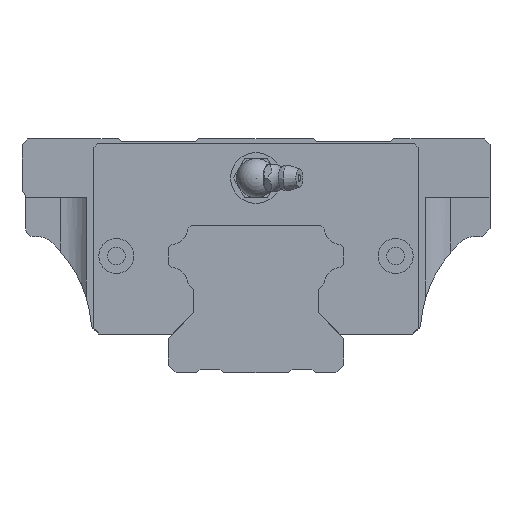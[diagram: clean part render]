
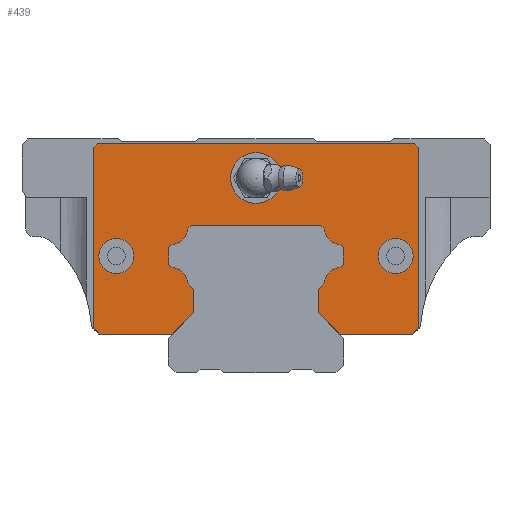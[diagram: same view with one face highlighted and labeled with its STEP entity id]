
A CAD part, front view. The second image highlights one B-rep face of the part: STEP entity #439.
In plain terms, the highlighted planar face has unit normal (0, -1, 0).
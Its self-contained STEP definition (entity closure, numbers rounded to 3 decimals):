
#124=FACE_BOUND('',#939,.T.);
#125=FACE_BOUND('',#940,.T.);
#126=FACE_BOUND('',#941,.T.);
#297=CIRCLE('',#3599,4.35);
#299=CIRCLE('',#3605,4.35);
#301=CIRCLE('',#3611,4.35);
#303=CIRCLE('',#3617,4.35);
#308=CIRCLE('',#3644,6.5);
#309=CIRCLE('',#3645,4.5);
#310=CIRCLE('',#3646,4.5);
#439=ADVANCED_FACE('',(#124,#125,#126,#761),#612,.F.);
#612=PLANE('',#3647);
#761=FACE_OUTER_BOUND('',#942,.T.);
#939=EDGE_LOOP('',(#1453));
#940=EDGE_LOOP('',(#1454));
#941=EDGE_LOOP('',(#1455));
#942=EDGE_LOOP('',(#1456,#1457,#1458,#1459,#1460,#1461,#1462,#1463,#1464,
#1465,#1466,#1467,#1468,#1469,#1470,#1471,#1472,#1473,#1474,#1475,#1476,
#1477,#1478,#1479,#1480,#1481,#1482,#1483));
#1453=ORIENTED_EDGE('',*,*,#2617,.F.);
#1454=ORIENTED_EDGE('',*,*,#2618,.F.);
#1455=ORIENTED_EDGE('',*,*,#2619,.F.);
#1456=ORIENTED_EDGE('',*,*,#2605,.F.);
#1457=ORIENTED_EDGE('',*,*,#2616,.T.);
#1458=ORIENTED_EDGE('',*,*,#2614,.T.);
#1459=ORIENTED_EDGE('',*,*,#2589,.T.);
#1460=ORIENTED_EDGE('',*,*,#2586,.F.);
#1461=ORIENTED_EDGE('',*,*,#2583,.F.);
#1462=ORIENTED_EDGE('',*,*,#2580,.T.);
#1463=ORIENTED_EDGE('',*,*,#2577,.T.);
#1464=ORIENTED_EDGE('',*,*,#2574,.T.);
#1465=ORIENTED_EDGE('',*,*,#2571,.F.);
#1466=ORIENTED_EDGE('',*,*,#2568,.F.);
#1467=ORIENTED_EDGE('',*,*,#2565,.T.);
#1468=ORIENTED_EDGE('',*,*,#2562,.F.);
#1469=ORIENTED_EDGE('',*,*,#2559,.T.);
#1470=ORIENTED_EDGE('',*,*,#2556,.T.);
#1471=ORIENTED_EDGE('',*,*,#2553,.T.);
#1472=ORIENTED_EDGE('',*,*,#2550,.T.);
#1473=ORIENTED_EDGE('',*,*,#2547,.T.);
#1474=ORIENTED_EDGE('',*,*,#2544,.F.);
#1475=ORIENTED_EDGE('',*,*,#2541,.T.);
#1476=ORIENTED_EDGE('',*,*,#2538,.F.);
#1477=ORIENTED_EDGE('',*,*,#2535,.T.);
#1478=ORIENTED_EDGE('',*,*,#2532,.T.);
#1479=ORIENTED_EDGE('',*,*,#2528,.F.);
#1480=ORIENTED_EDGE('',*,*,#2613,.T.);
#1481=ORIENTED_EDGE('',*,*,#2611,.F.);
#1482=ORIENTED_EDGE('',*,*,#2609,.F.);
#1483=ORIENTED_EDGE('',*,*,#2607,.F.);
#2169=VERTEX_POINT('',#5080);
#2170=VERTEX_POINT('',#5082);
#2173=VERTEX_POINT('',#5090);
#2175=VERTEX_POINT('',#5096);
#2177=VERTEX_POINT('',#5102);
#2179=VERTEX_POINT('',#5108);
#2181=VERTEX_POINT('',#5114);
#2183=VERTEX_POINT('',#5120);
#2185=VERTEX_POINT('',#5126);
#2187=VERTEX_POINT('',#5132);
#2189=VERTEX_POINT('',#5138);
#2191=VERTEX_POINT('',#5144);
#2193=VERTEX_POINT('',#5150);
#2195=VERTEX_POINT('',#5156);
#2197=VERTEX_POINT('',#5162);
#2199=VERTEX_POINT('',#5168);
#2201=VERTEX_POINT('',#5174);
#2203=VERTEX_POINT('',#5180);
#2205=VERTEX_POINT('',#5186);
#2207=VERTEX_POINT('',#5192);
#2209=VERTEX_POINT('',#5198);
#2211=VERTEX_POINT('',#5204);
#2217=VERTEX_POINT('',#5239);
#2218=VERTEX_POINT('',#5241);
#2219=VERTEX_POINT('',#5245);
#2220=VERTEX_POINT('',#5249);
#2221=VERTEX_POINT('',#5253);
#2222=VERTEX_POINT('',#5259);
#2223=VERTEX_POINT('',#5265);
#2224=VERTEX_POINT('',#5267);
#2225=VERTEX_POINT('',#5269);
#2528=EDGE_CURVE('',#2169,#2170,#2970,.T.);
#2532=EDGE_CURVE('',#2173,#2170,#2974,.T.);
#2535=EDGE_CURVE('',#2175,#2173,#2977,.T.);
#2538=EDGE_CURVE('',#2175,#2177,#2980,.T.);
#2541=EDGE_CURVE('',#2179,#2177,#297,.T.);
#2544=EDGE_CURVE('',#2179,#2181,#2984,.T.);
#2547=EDGE_CURVE('',#2183,#2181,#2987,.T.);
#2550=EDGE_CURVE('',#2185,#2183,#2990,.T.);
#2553=EDGE_CURVE('',#2187,#2185,#299,.T.);
#2556=EDGE_CURVE('',#2189,#2187,#2994,.T.);
#2559=EDGE_CURVE('',#2191,#2189,#2997,.T.);
#2562=EDGE_CURVE('',#2191,#2193,#3000,.T.);
#2565=EDGE_CURVE('',#2195,#2193,#301,.T.);
#2568=EDGE_CURVE('',#2195,#2197,#3004,.T.);
#2571=EDGE_CURVE('',#2197,#2199,#3007,.T.);
#2574=EDGE_CURVE('',#2201,#2199,#3010,.T.);
#2577=EDGE_CURVE('',#2203,#2201,#303,.T.);
#2580=EDGE_CURVE('',#2205,#2203,#3014,.T.);
#2583=EDGE_CURVE('',#2205,#2207,#3017,.T.);
#2586=EDGE_CURVE('',#2207,#2209,#3020,.T.);
#2589=EDGE_CURVE('',#2211,#2209,#3023,.T.);
#2605=EDGE_CURVE('',#2217,#2218,#3035,.T.);
#2607=EDGE_CURVE('',#2218,#2219,#3037,.T.);
#2609=EDGE_CURVE('',#2219,#2220,#3039,.T.);
#2611=EDGE_CURVE('',#2220,#2221,#3041,.T.);
#2613=EDGE_CURVE('',#2169,#2221,#3043,.T.);
#2614=EDGE_CURVE('',#2222,#2211,#3044,.T.);
#2616=EDGE_CURVE('',#2217,#2222,#3046,.T.);
#2617=EDGE_CURVE('',#2223,#2223,#308,.T.);
#2618=EDGE_CURVE('',#2224,#2224,#309,.T.);
#2619=EDGE_CURVE('',#2225,#2225,#310,.T.);
#2970=LINE('',#5081,#3308);
#2974=LINE('',#5089,#3312);
#2977=LINE('',#5095,#3315);
#2980=LINE('',#5101,#3318);
#2984=LINE('',#5113,#3322);
#2987=LINE('',#5119,#3325);
#2990=LINE('',#5125,#3328);
#2994=LINE('',#5137,#3332);
#2997=LINE('',#5143,#3335);
#3000=LINE('',#5149,#3338);
#3004=LINE('',#5161,#3342);
#3007=LINE('',#5167,#3345);
#3010=LINE('',#5173,#3348);
#3014=LINE('',#5185,#3352);
#3017=LINE('',#5191,#3355);
#3020=LINE('',#5197,#3358);
#3023=LINE('',#5203,#3361);
#3035=LINE('',#5240,#3373);
#3037=LINE('',#5244,#3375);
#3039=LINE('',#5248,#3377);
#3041=LINE('',#5252,#3379);
#3043=LINE('',#5256,#3381);
#3044=LINE('',#5258,#3382);
#3046=LINE('',#5262,#3384);
#3308=VECTOR('',#4046,1.);
#3312=VECTOR('',#4052,1.);
#3315=VECTOR('',#4057,1.);
#3318=VECTOR('',#4062,1.);
#3322=VECTOR('',#4074,1.);
#3325=VECTOR('',#4079,1.);
#3328=VECTOR('',#4084,1.);
#3332=VECTOR('',#4096,1.);
#3335=VECTOR('',#4101,1.);
#3338=VECTOR('',#4106,1.);
#3342=VECTOR('',#4118,1.);
#3345=VECTOR('',#4123,1.);
#3348=VECTOR('',#4128,1.);
#3352=VECTOR('',#4140,1.);
#3355=VECTOR('',#4145,1.);
#3358=VECTOR('',#4150,1.);
#3361=VECTOR('',#4155,1.);
#3373=VECTOR('',#4195,1.);
#3375=VECTOR('',#4199,1.);
#3377=VECTOR('',#4203,1.);
#3379=VECTOR('',#4207,1.);
#3381=VECTOR('',#4211,1.);
#3382=VECTOR('',#4214,1.);
#3384=VECTOR('',#4218,1.);
#3599=AXIS2_PLACEMENT_3D('',#5107,#4067,#4068);
#3605=AXIS2_PLACEMENT_3D('',#5131,#4089,#4090);
#3611=AXIS2_PLACEMENT_3D('',#5155,#4111,#4112);
#3617=AXIS2_PLACEMENT_3D('',#5179,#4133,#4134);
#3644=AXIS2_PLACEMENT_3D('',#5264,#4221,#4222);
#3645=AXIS2_PLACEMENT_3D('',#5266,#4223,#4224);
#3646=AXIS2_PLACEMENT_3D('',#5268,#4225,#4226);
#3647=AXIS2_PLACEMENT_3D('',#5270,#4227,#4228);
#4046=DIRECTION('',(-1.,0.,0.));
#4052=DIRECTION('',(0.707,0.,-0.707));
#4057=DIRECTION('',(0.,0.,-1.));
#4062=DIRECTION('',(0.707,0.,0.707));
#4067=DIRECTION('',(0.,-1.,0.));
#4068=DIRECTION('',(1.,0.,0.));
#4074=DIRECTION('',(0.707,0.,0.707));
#4079=DIRECTION('',(0.,0.,-1.));
#4084=DIRECTION('',(0.707,0.,-0.707));
#4089=DIRECTION('',(0.,-1.,0.));
#4090=DIRECTION('',(1.,0.,0.));
#4096=DIRECTION('',(0.707,0.,-0.707));
#4101=DIRECTION('',(1.,0.,0.));
#4106=DIRECTION('',(-0.707,0.,-0.707));
#4111=DIRECTION('',(0.,-1.,0.));
#4112=DIRECTION('',(1.,0.,0.));
#4118=DIRECTION('',(-0.707,0.,-0.707));
#4123=DIRECTION('',(0.,0.,-1.));
#4128=DIRECTION('',(-0.707,0.,0.707));
#4133=DIRECTION('',(0.,-1.,0.));
#4134=DIRECTION('',(1.,0.,0.));
#4140=DIRECTION('',(-0.707,0.,0.707));
#4145=DIRECTION('',(0.,0.,-1.));
#4150=DIRECTION('',(-0.707,0.,-0.707));
#4155=DIRECTION('',(1.,0.,0.));
#4195=DIRECTION('',(0.707,0.,0.707));
#4199=DIRECTION('',(1.,0.,0.));
#4203=DIRECTION('',(0.707,0.,-0.707));
#4207=DIRECTION('',(0.,0.,-1.));
#4211=DIRECTION('',(0.707,0.,0.707));
#4214=DIRECTION('',(0.707,0.,-0.707));
#4218=DIRECTION('',(0.,0.,-1.));
#4221=DIRECTION('',(0.,-1.,0.));
#4222=DIRECTION('',(0.,0.,-1.));
#4223=DIRECTION('',(0.,-1.,0.));
#4224=DIRECTION('',(0.,0.,-1.));
#4225=DIRECTION('',(0.,-1.,0.));
#4226=DIRECTION('',(0.,0.,-1.));
#4227=DIRECTION('',(0.,1.,0.));
#4228=DIRECTION('',(0.,0.,-1.));
#5080=CARTESIAN_POINT('',(40.146,-67.85,10.));
#5081=CARTESIAN_POINT('',(40.146,-67.85,10.));
#5082=CARTESIAN_POINT('',(21.359,-67.85,10.));
#5089=CARTESIAN_POINT('',(15.9,-67.85,15.459));
#5090=CARTESIAN_POINT('',(15.9,-67.85,15.459));
#5095=CARTESIAN_POINT('',(15.9,-67.85,21.441));
#5096=CARTESIAN_POINT('',(15.9,-67.85,21.441));
#5101=CARTESIAN_POINT('',(15.9,-67.85,21.441));
#5102=CARTESIAN_POINT('',(17.575,-67.85,23.116));
#5107=CARTESIAN_POINT('',(21.912,-67.85,22.788));
#5108=CARTESIAN_POINT('',(21.584,-67.85,27.125));
#5113=CARTESIAN_POINT('',(21.584,-67.85,27.125));
#5114=CARTESIAN_POINT('',(22.4,-67.85,27.941));
#5119=CARTESIAN_POINT('',(22.4,-67.85,32.059));
#5120=CARTESIAN_POINT('',(22.4,-67.85,32.059));
#5125=CARTESIAN_POINT('',(21.584,-67.85,32.875));
#5126=CARTESIAN_POINT('',(21.584,-67.85,32.875));
#5131=CARTESIAN_POINT('',(21.912,-67.85,37.212));
#5132=CARTESIAN_POINT('',(17.575,-67.85,36.884));
#5137=CARTESIAN_POINT('',(16.559,-67.85,37.9));
#5138=CARTESIAN_POINT('',(16.559,-67.85,37.9));
#5143=CARTESIAN_POINT('',(-16.559,-67.85,37.9));
#5144=CARTESIAN_POINT('',(-16.559,-67.85,37.9));
#5149=CARTESIAN_POINT('',(-16.559,-67.85,37.9));
#5150=CARTESIAN_POINT('',(-17.575,-67.85,36.884));
#5155=CARTESIAN_POINT('',(-21.912,-67.85,37.212));
#5156=CARTESIAN_POINT('',(-21.584,-67.85,32.875));
#5161=CARTESIAN_POINT('',(-21.584,-67.85,32.875));
#5162=CARTESIAN_POINT('',(-22.4,-67.85,32.059));
#5167=CARTESIAN_POINT('',(-22.4,-67.85,32.059));
#5168=CARTESIAN_POINT('',(-22.4,-67.85,27.941));
#5173=CARTESIAN_POINT('',(-21.584,-67.85,27.125));
#5174=CARTESIAN_POINT('',(-21.584,-67.85,27.125));
#5179=CARTESIAN_POINT('',(-21.912,-67.85,22.788));
#5180=CARTESIAN_POINT('',(-17.575,-67.85,23.116));
#5185=CARTESIAN_POINT('',(-15.9,-67.85,21.441));
#5186=CARTESIAN_POINT('',(-15.9,-67.85,21.441));
#5191=CARTESIAN_POINT('',(-15.9,-67.85,21.441));
#5192=CARTESIAN_POINT('',(-15.9,-67.85,15.459));
#5197=CARTESIAN_POINT('',(-15.9,-67.85,15.459));
#5198=CARTESIAN_POINT('',(-21.359,-67.85,10.));
#5203=CARTESIAN_POINT('',(-40.146,-67.85,10.));
#5204=CARTESIAN_POINT('',(-40.146,-67.85,10.));
#5239=CARTESIAN_POINT('',(-41.55,-67.85,57.896));
#5240=CARTESIAN_POINT('',(-41.55,-67.85,57.896));
#5241=CARTESIAN_POINT('',(-40.696,-67.85,58.75));
#5244=CARTESIAN_POINT('',(-40.696,-67.85,58.75));
#5245=CARTESIAN_POINT('',(40.696,-67.85,58.75));
#5248=CARTESIAN_POINT('',(40.696,-67.85,58.75));
#5249=CARTESIAN_POINT('',(41.55,-67.85,57.896));
#5252=CARTESIAN_POINT('',(41.55,-67.85,57.896));
#5253=CARTESIAN_POINT('',(41.55,-67.85,11.404));
#5256=CARTESIAN_POINT('',(40.146,-67.85,10.));
#5258=CARTESIAN_POINT('',(-41.55,-67.85,11.404));
#5259=CARTESIAN_POINT('',(-41.55,-67.85,11.404));
#5262=CARTESIAN_POINT('',(-41.55,-67.85,57.896));
#5264=CARTESIAN_POINT('',(0.,-67.85,50.));
#5265=CARTESIAN_POINT('',(0.,-67.85,43.5));
#5266=CARTESIAN_POINT('',(35.8,-67.85,30.));
#5267=CARTESIAN_POINT('',(35.8,-67.85,25.5));
#5268=CARTESIAN_POINT('',(-35.8,-67.85,30.));
#5269=CARTESIAN_POINT('',(-35.8,-67.85,25.5));
#5270=CARTESIAN_POINT('',(21.912,-67.85,22.788));
